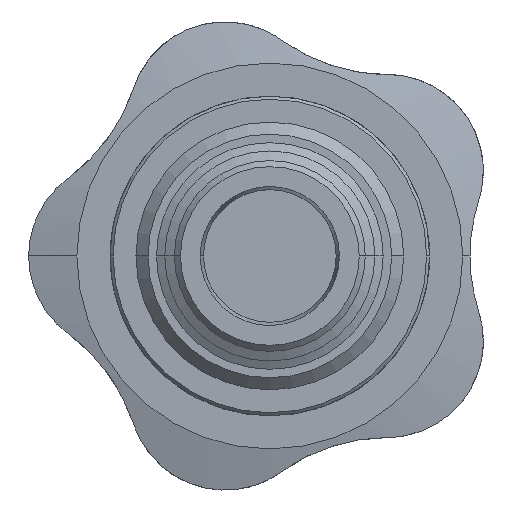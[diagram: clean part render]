
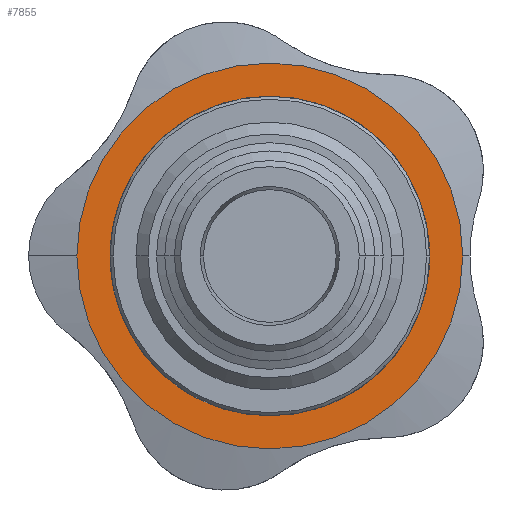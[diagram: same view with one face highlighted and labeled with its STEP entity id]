
A CAD part, front view. The second image highlights one B-rep face of the part: STEP entity #7855.
In plain terms, the highlighted planar face has unit normal (0, -1, 0).
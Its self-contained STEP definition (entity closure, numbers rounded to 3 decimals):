
#4528=CARTESIAN_POINT('',(0.,59.,0.));
#4529=DIRECTION('',(0.,-1.,0.));
#4530=DIRECTION('',(-1.,0.,0.));
#4531=AXIS2_PLACEMENT_3D('',#4528,#4529,#4530);
#4536=CARTESIAN_POINT('',(0.,59.,0.));
#4537=DIRECTION('',(0.,1.,0.));
#4538=DIRECTION('',(-1.,0.,0.));
#4539=AXIS2_PLACEMENT_3D('',#4536,#4537,#4538);
#4544=CARTESIAN_POINT('',(0.,59.,0.));
#4545=DIRECTION('',(0.,1.,0.));
#4546=DIRECTION('',(-1.,0.,0.));
#4547=AXIS2_PLACEMENT_3D('',#4544,#4545,#4546);
#4552=CARTESIAN_POINT('',(0.,59.,0.));
#4553=DIRECTION('',(0.,-1.,0.));
#4554=DIRECTION('',(-1.,0.,0.));
#4555=AXIS2_PLACEMENT_3D('',#4552,#4553,#4554);
#5704=CARTESIAN_POINT('',(-10.,59.,0.));
#5706=VERTEX_POINT('',#5704);
#5708=CARTESIAN_POINT('',(10.,59.,0.));
#5710=VERTEX_POINT('',#5708);
#5712=CARTESIAN_POINT('',(-16.,59.,0.));
#5713=CARTESIAN_POINT('',(16.,59.,0.));
#5714=VERTEX_POINT('',#5712);
#5715=VERTEX_POINT('',#5713);
#7840=CARTESIAN_POINT('',(0.,59.,0.));
#7841=DIRECTION('',(0.,1.,0.));
#7842=DIRECTION('',(1.,0.,0.));
#7843=AXIS2_PLACEMENT_3D('',#7840,#7841,#7842);
#7844=PLANE('',#7843);
#7846=ORIENTED_EDGE('',*,*,#7845,.T.);
#7848=ORIENTED_EDGE('',*,*,#7847,.F.);
#7849=EDGE_LOOP('',(#7846,#7848));
#7850=FACE_OUTER_BOUND('',#7849,.F.);
#7851=ORIENTED_EDGE('',*,*,#7798,.T.);
#7852=ORIENTED_EDGE('',*,*,#7821,.F.);
#7853=EDGE_LOOP('',(#7851,#7852));
#7854=FACE_BOUND('',#7853,.F.);
#4532=CIRCLE('',#4531,10.);
#4540=CIRCLE('',#4539,10.);
#4548=CIRCLE('',#4547,16.);
#4556=CIRCLE('',#4555,16.);
#7798=EDGE_CURVE('',#5706,#5710,#4532,.T.);
#7821=EDGE_CURVE('',#5706,#5710,#4540,.T.);
#7845=EDGE_CURVE('',#5714,#5715,#4548,.T.);
#7847=EDGE_CURVE('',#5714,#5715,#4556,.T.);
#7855=ADVANCED_FACE('',(#7850,#7854),#7844,.F.);
